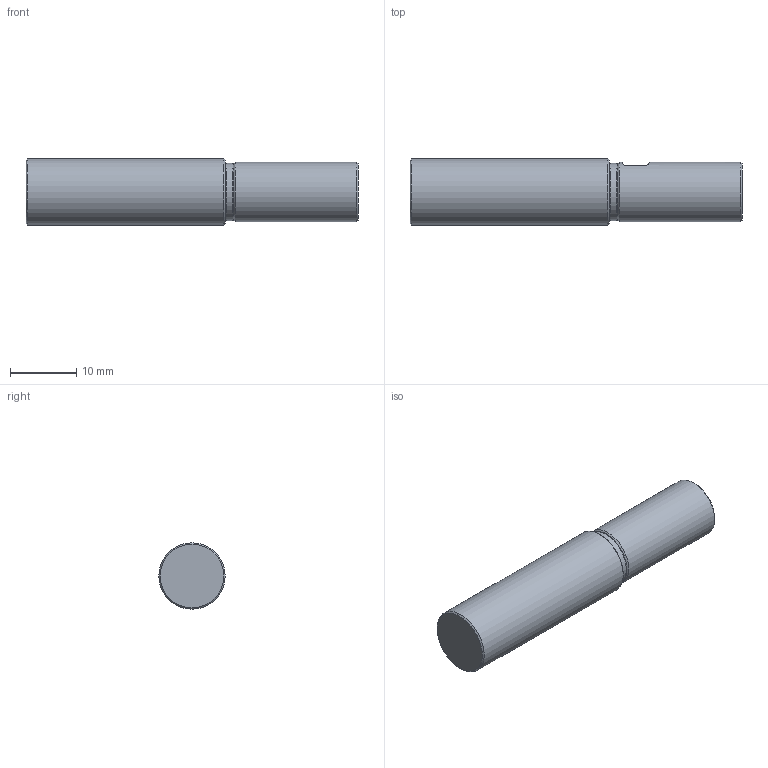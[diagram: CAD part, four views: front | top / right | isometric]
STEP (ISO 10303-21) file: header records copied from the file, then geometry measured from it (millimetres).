
FILE_DESCRIPTION(/* description */ (''),/* implementation_level */ '2;1');
FILE_NAME(/* name */ 'UF S-L050-D09-C10.stp',/* time_stamp */ '2026-03-04T21:43:33+02:00',/* author */ ('harel'),/* organization */ (''),/* preprocessor_version */ 'ST-DEVELOPER v20',/* originating_system */ 'Autodesk Inventor 2025',/* authorisation */ '');
FILE_SCHEMA (('AUTOMOTIVE_DESIGN { 1 0 10303 214 3 1 1 }'));
Length unit declared in the file: millimetre
Products named in the file (1): UF S-L045-D06-C06
Bounding box: 50 x 10 x 10 mm (x, y, z)
Volume: 3614.2 mm3; surface area: 1658.3 mm2
Topology: 1 solids, 1 shells, 17 faces, 35 edges, 22 vertices
Faces by surface type: plane 6, cylinder 5, cone 4, torus 2
Full cylindrical faces by diameter (mm): 8.6 x1, 9 x1, 10 x1
Entity records: 534 total; most frequent: CARTESIAN_POINT 119, DIRECTION 85, ORIENTED_EDGE 70, AXIS2_PLACEMENT_3D 36, EDGE_CURVE 35, VERTEX_POINT 22, EDGE_LOOP 19, CIRCLE 18
